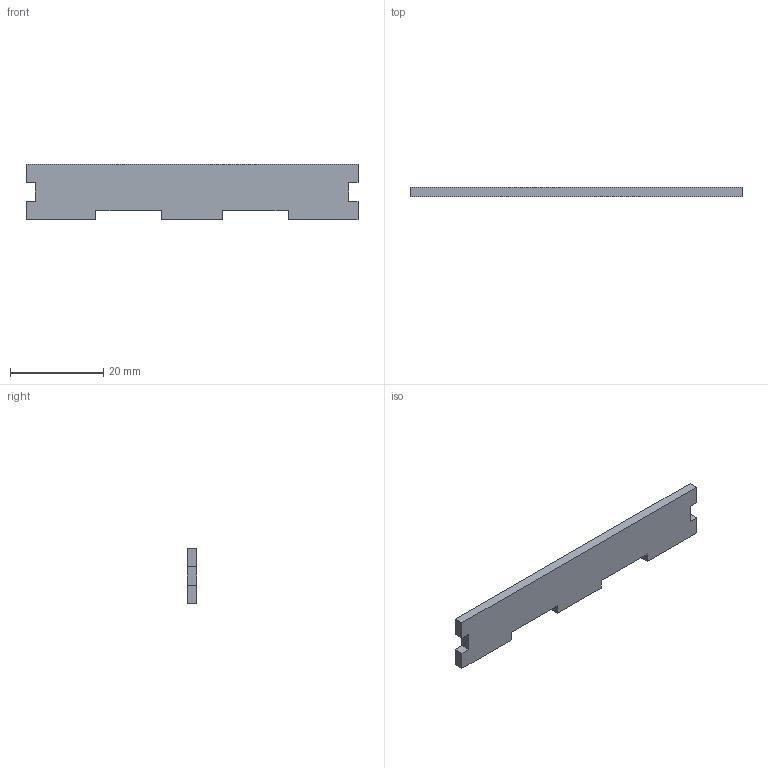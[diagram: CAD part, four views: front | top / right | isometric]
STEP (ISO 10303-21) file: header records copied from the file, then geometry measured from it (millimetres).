
FILE_DESCRIPTION(('FreeCAD Model'),'2;1');
FILE_NAME('Open CASCADE Shape Model','2025-03-08T17:24:40',(''),(''), 'Open CASCADE STEP processor 7.8','FreeCAD','Unknown');
FILE_SCHEMA(('AUTOMOTIVE_DESIGN { 1 0 10303 214 1 1 1 1 }'));
Length unit declared in the file: millimetre
Products named in the file (1): 下
Bounding box: 71.2 x 2 x 12 mm (x, y, z)
Volume: 1564.8 mm3; surface area: 1929.6 mm2
Topology: 1 solids, 1 shells, 22 faces, 60 edges, 40 vertices
Faces by surface type: plane 22
Entity records: 706 total; most frequent: CARTESIAN_POINT 123, ORIENTED_EDGE 120, DIRECTION 106, EDGE_CURVE 60, LINE 60, VECTOR 60, VERTEX_POINT 40, AXIS2_PLACEMENT_3D 23
